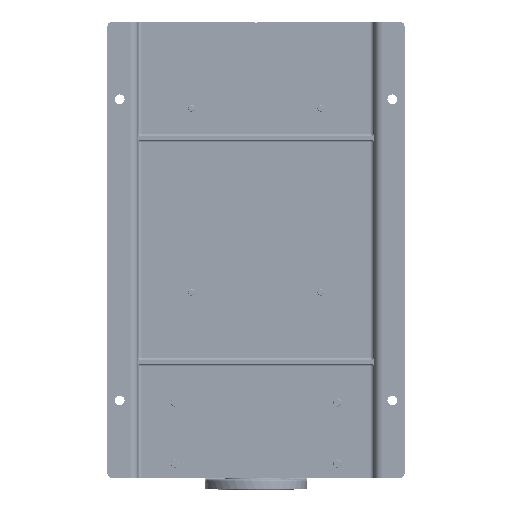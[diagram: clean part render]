
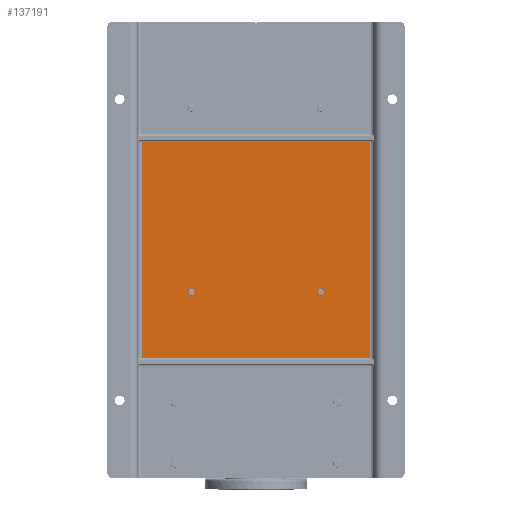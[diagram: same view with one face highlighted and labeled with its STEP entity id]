
A CAD part, front view. The second image highlights one B-rep face of the part: STEP entity #137191.
In plain terms, the highlighted planar face has unit normal (0, -1, 0).
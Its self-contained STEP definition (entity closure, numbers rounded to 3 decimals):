
#1796 = CIRCLE ( 'NONE', #164674, 8. ) ;
#3780 = CIRCLE ( 'NONE', #157474, 8. ) ;
#4046 = EDGE_CURVE ( 'NONE', #118742, #189062, #166770, .T. ) ;
#11208 = CARTESIAN_POINT ( 'NONE',  ( 206., 90., -455.65 ) ) ;
#15470 = VECTOR ( 'NONE', #18037, 1000. ) ;
#18037 = DIRECTION ( 'NONE',  ( -1., 0., 0. ) ) ;
#21140 = EDGE_CURVE ( 'NONE', #98199, #231713, #81420, .T. ) ;
#38875 = CARTESIAN_POINT ( 'NONE',  ( 206., 90., -463.65 ) ) ;
#40653 = VECTOR ( 'NONE', #170045, 1000. ) ;
#48966 = CARTESIAN_POINT ( 'NONE',  ( 645., 90., -825. ) ) ;
#54258 = DIRECTION ( 'NONE',  ( 0., 1., 0. ) ) ;
#55746 = FACE_OUTER_BOUND ( 'NONE', #77823, .T. ) ;
#56317 = DIRECTION ( 'NONE',  ( 0., 1., 0. ) ) ;
#63935 = CARTESIAN_POINT ( 'NONE',  ( 75., 90., -1120. ) ) ;
#66234 = EDGE_CURVE ( 'NONE', #79943, #286039, #213784, .T. ) ;
#66362 = ORIENTED_EDGE ( 'NONE', *, *, #21140, .T. ) ;
#68496 = VERTEX_POINT ( 'NONE', #38875 ) ;
#73759 = AXIS2_PLACEMENT_3D ( 'NONE', #125588, #54258, #277191 ) ;
#77618 = DIRECTION ( 'NONE',  ( 1., 0., 0. ) ) ;
#77823 = EDGE_LOOP ( 'NONE', ( #116600, #80334, #66362, #188381 ) ) ;
#79943 = VERTEX_POINT ( 'NONE', #133739 ) ;
#80334 = ORIENTED_EDGE ( 'NONE', *, *, #148086, .T. ) ;
#81420 = LINE ( 'NONE', #263478, #202581 ) ;
#84292 = DIRECTION ( 'NONE',  ( 0., 0., 1. ) ) ;
#85836 = PLANE ( 'NONE',  #273343 ) ;
#87466 = ORIENTED_EDGE ( 'NONE', *, *, #93937, .T. ) ;
#89931 = CARTESIAN_POINT ( 'NONE',  ( 85., 90., -825. ) ) ;
#93937 = EDGE_CURVE ( 'NONE', #189062, #118742, #130843, .T. ) ;
#98199 = VERTEX_POINT ( 'NONE', #48966 ) ;
#100035 = DIRECTION ( 'NONE',  ( 0., 0., -1. ) ) ;
#108840 = CARTESIAN_POINT ( 'NONE',  ( 645., 90., -295. ) ) ;
#115207 = VECTOR ( 'NONE', #77618, 1000. ) ;
#116600 = ORIENTED_EDGE ( 'NONE', *, *, #66234, .T. ) ;
#118742 = VERTEX_POINT ( 'NONE', #282988 ) ;
#125588 = CARTESIAN_POINT ( 'NONE',  ( 524., 90., -455.65 ) ) ;
#130843 = CIRCLE ( 'NONE', #168134, 8. ) ;
#133739 = CARTESIAN_POINT ( 'NONE',  ( 85., 90., -295. ) ) ;
#137191 = ADVANCED_FACE ( 'NONE', ( #196643, #282547, #55746 ), #85836, .T. ) ;
#148086 = EDGE_CURVE ( 'NONE', #286039, #98199, #272954, .T. ) ;
#150603 = CARTESIAN_POINT ( 'NONE',  ( 75., 90., -295. ) ) ;
#152846 = DIRECTION ( 'NONE',  ( 0., -1., 0. ) ) ;
#157474 = AXIS2_PLACEMENT_3D ( 'NONE', #209983, #188117, #231831 ) ;
#158535 = ORIENTED_EDGE ( 'NONE', *, *, #257787, .T. ) ;
#161313 = DIRECTION ( 'NONE',  ( 0., 0., 1. ) ) ;
#164674 = AXIS2_PLACEMENT_3D ( 'NONE', #11208, #56317, #100035 ) ;
#165319 = CARTESIAN_POINT ( 'NONE',  ( 524., 90., -463.65 ) ) ;
#166770 = CIRCLE ( 'NONE', #73759, 8. ) ;
#168134 = AXIS2_PLACEMENT_3D ( 'NONE', #184659, #273510, #161313 ) ;
#170045 = DIRECTION ( 'NONE',  ( 0., 0., -1. ) ) ;
#184659 = CARTESIAN_POINT ( 'NONE',  ( 524., 90., -455.65 ) ) ;
#188117 = DIRECTION ( 'NONE',  ( 0., 1., 0. ) ) ;
#188381 = ORIENTED_EDGE ( 'NONE', *, *, #214156, .T. ) ;
#189062 = VERTEX_POINT ( 'NONE', #165319 ) ;
#194854 = ORIENTED_EDGE ( 'NONE', *, *, #260342, .T. ) ;
#196643 = FACE_BOUND ( 'NONE', #286520, .T. ) ;
#202581 = VECTOR ( 'NONE', #84292, 1000. ) ;
#209983 = CARTESIAN_POINT ( 'NONE',  ( 206., 90., -455.65 ) ) ;
#213784 = LINE ( 'NONE', #286471, #40653 ) ;
#214156 = EDGE_CURVE ( 'NONE', #231713, #79943, #283214, .T. ) ;
#231713 = VERTEX_POINT ( 'NONE', #108840 ) ;
#231831 = DIRECTION ( 'NONE',  ( 0., 0., -1. ) ) ;
#241748 = DIRECTION ( 'NONE',  ( 0., 0., -1. ) ) ;
#257787 = EDGE_CURVE ( 'NONE', #262753, #68496, #3780, .T. ) ;
#260342 = EDGE_CURVE ( 'NONE', #68496, #262753, #1796, .T. ) ;
#262753 = VERTEX_POINT ( 'NONE', #276630 ) ;
#263478 = CARTESIAN_POINT ( 'NONE',  ( 645., 90., -290. ) ) ;
#272954 = LINE ( 'NONE', #277253, #115207 ) ;
#273343 = AXIS2_PLACEMENT_3D ( 'NONE', #63935, #152846, #241748 ) ;
#273510 = DIRECTION ( 'NONE',  ( 0., 1., 0. ) ) ;
#276630 = CARTESIAN_POINT ( 'NONE',  ( 206., 90., -447.65 ) ) ;
#277191 = DIRECTION ( 'NONE',  ( 0., 0., 1. ) ) ;
#277253 = CARTESIAN_POINT ( 'NONE',  ( 75., 90., -825. ) ) ;
#278601 = ORIENTED_EDGE ( 'NONE', *, *, #4046, .T. ) ;
#281580 = EDGE_LOOP ( 'NONE', ( #158535, #194854 ) ) ;
#282547 = FACE_BOUND ( 'NONE', #281580, .T. ) ;
#282988 = CARTESIAN_POINT ( 'NONE',  ( 524., 90., -447.65 ) ) ;
#283214 = LINE ( 'NONE', #150603, #15470 ) ;
#286039 = VERTEX_POINT ( 'NONE', #89931 ) ;
#286471 = CARTESIAN_POINT ( 'NONE',  ( 85., 90., -830. ) ) ;
#286520 = EDGE_LOOP ( 'NONE', ( #278601, #87466 ) ) ;
